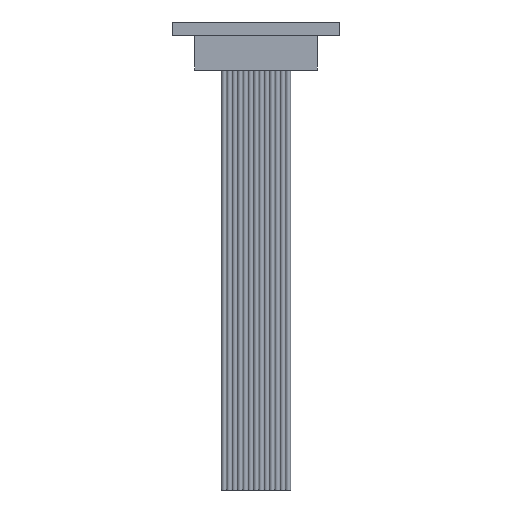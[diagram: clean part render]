
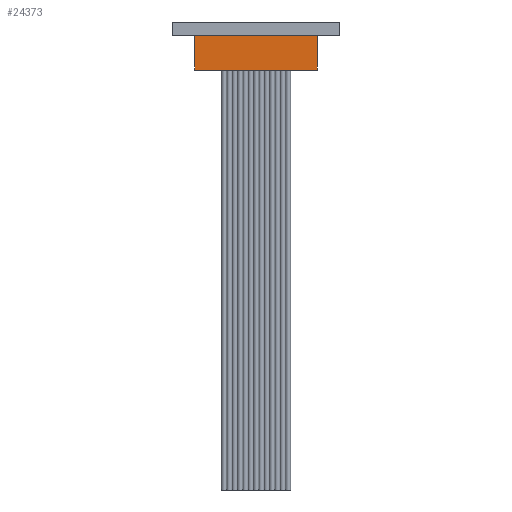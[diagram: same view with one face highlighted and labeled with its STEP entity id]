
A CAD part, front view. The second image highlights one B-rep face of the part: STEP entity #24373.
In plain terms, the highlighted planar face has unit normal (0, -1, 0).
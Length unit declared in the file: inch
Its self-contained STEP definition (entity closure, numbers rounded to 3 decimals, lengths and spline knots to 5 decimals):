
#2175 = VECTOR ( 'NONE', #15720, 39.37008 ) ;
#2372 = CARTESIAN_POINT ( 'NONE',  ( 0.2875, -0.0625, -0.225 ) ) ;
#3718 = VECTOR ( 'NONE', #16375, 39.37008 ) ;
#3955 = DIRECTION ( 'NONE',  ( 1., 0., 0. ) ) ;
#4844 = ORIENTED_EDGE ( 'NONE', *, *, #34989, .T. ) ;
#7946 = ORIENTED_EDGE ( 'NONE', *, *, #22712, .T. ) ;
#8054 = EDGE_CURVE ( 'NONE', #31964, #25352, #33365, .T. ) ;
#8201 = FACE_OUTER_BOUND ( 'NONE', #24839, .T. ) ;
#8957 = CARTESIAN_POINT ( 'NONE',  ( 0.2875, -0.0625, -0.225 ) ) ;
#9963 = VERTEX_POINT ( 'NONE', #23451 ) ;
#11895 = ORIENTED_EDGE ( 'NONE', *, *, #33745, .F. ) ;
#14688 = VERTEX_POINT ( 'NONE', #37533 ) ;
#14956 = AXIS2_PLACEMENT_3D ( 'NONE', #2372, #39077, #29233 ) ;
#15720 = DIRECTION ( 'NONE',  ( 0., 0., 1. ) ) ;
#15943 = LINE ( 'NONE', #8957, #2175 ) ;
#16146 = CARTESIAN_POINT ( 'NONE',  ( -0.2875, -0.0625, -0.225 ) ) ;
#16375 = DIRECTION ( 'NONE',  ( 0., 0., 1. ) ) ;
#16757 = DIRECTION ( 'NONE',  ( 1., 0., 0. ) ) ;
#17456 = PLANE ( 'NONE',  #14956 ) ;
#18921 = CARTESIAN_POINT ( 'NONE',  ( -0.2875, -0.0625, -0.225 ) ) ;
#22712 = EDGE_CURVE ( 'NONE', #9963, #14688, #15943, .T. ) ;
#23451 = CARTESIAN_POINT ( 'NONE',  ( 0.2875, -0.0625, -0.225 ) ) ;
#23670 = CARTESIAN_POINT ( 'NONE',  ( 0.2875, -0.0625, -0.225 ) ) ;
#24373 = ADVANCED_FACE ( 'NONE', ( #8201 ), #17456, .T. ) ;
#24839 = EDGE_LOOP ( 'NONE', ( #7946, #11895, #25323, #4844 ) ) ;
#25323 = ORIENTED_EDGE ( 'NONE', *, *, #8054, .F. ) ;
#25352 = VERTEX_POINT ( 'NONE', #37544 ) ;
#29233 = DIRECTION ( 'NONE',  ( 0., 0., 1. ) ) ;
#30158 = LINE ( 'NONE', #23670, #31963 ) ;
#31963 = VECTOR ( 'NONE', #16757, 39.37008 ) ;
#31964 = VERTEX_POINT ( 'NONE', #18921 ) ;
#33254 = VECTOR ( 'NONE', #3955, 39.37008 ) ;
#33365 = LINE ( 'NONE', #16146, #3718 ) ;
#33745 = EDGE_CURVE ( 'NONE', #25352, #14688, #37767, .T. ) ;
#34184 = CARTESIAN_POINT ( 'NONE',  ( -0.2875, -0.0625, -0.062 ) ) ;
#34989 = EDGE_CURVE ( 'NONE', #31964, #9963, #30158, .T. ) ;
#37533 = CARTESIAN_POINT ( 'NONE',  ( 0.2875, -0.0625, -0.062 ) ) ;
#37544 = CARTESIAN_POINT ( 'NONE',  ( -0.2875, -0.0625, -0.062 ) ) ;
#37767 = LINE ( 'NONE', #34184, #33254 ) ;
#39077 = DIRECTION ( 'NONE',  ( 0., -1., 0. ) ) ;
